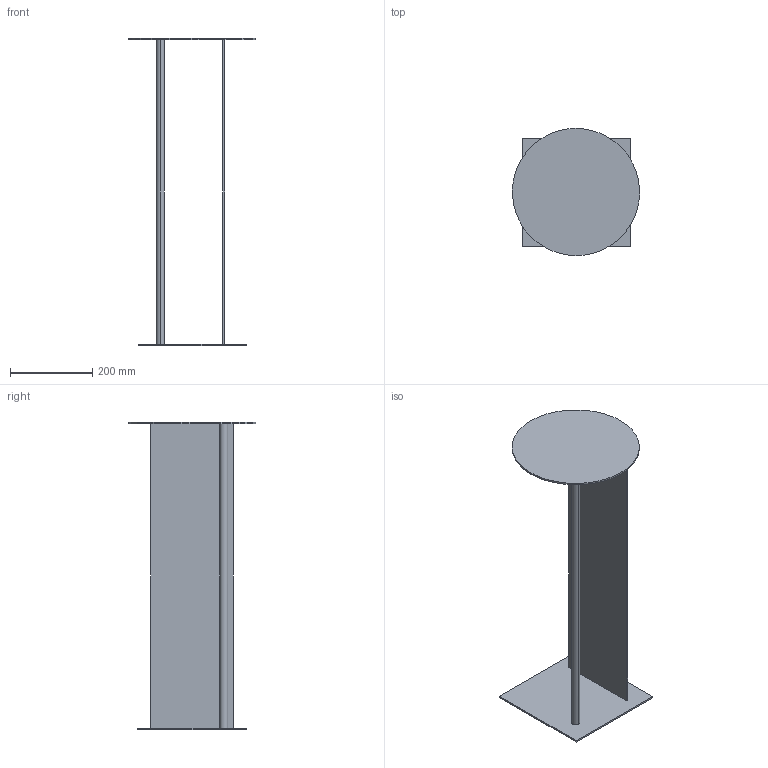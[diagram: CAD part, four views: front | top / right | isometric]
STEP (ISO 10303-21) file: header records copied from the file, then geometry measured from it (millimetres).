
FILE_DESCRIPTION(/* description */ (''),/* implementation_level */ '2;1');
FILE_NAME(/* name */ 'P356RZ~U',/* time_stamp */ '2019-09-06T11:07:49+02:00',/* author */ (''),/* organization */ (''),/* preprocessor_version */ 'ST-DEVELOPER v16.5',/* originating_system */ '',/* authorisation */ '');
FILE_SCHEMA (('AUTOMOTIVE_DESIGN'));
Length unit declared in the file: millimetre
Products named in the file (1): Document
Bounding box: 309.65 x 310 x 749.94 mm (x, y, z)
Volume: 1598042.3 mm3; surface area: 688563.1 mm2
Topology: 2 solids, 2 shells, 20 faces, 42 edges, 28 vertices
Faces by surface type: plane 14, bspline 6
Entity records: 540 total; most frequent: CARTESIAN_POINT 224, ORIENTED_EDGE 84, EDGE_CURVE 42, VERTEX_POINT 28, B_SPLINE_CURVE_WITH_KNOTS 24, EDGE_LOOP 24, ADVANCED_FACE 20, FACE_OUTER_BOUND 20
